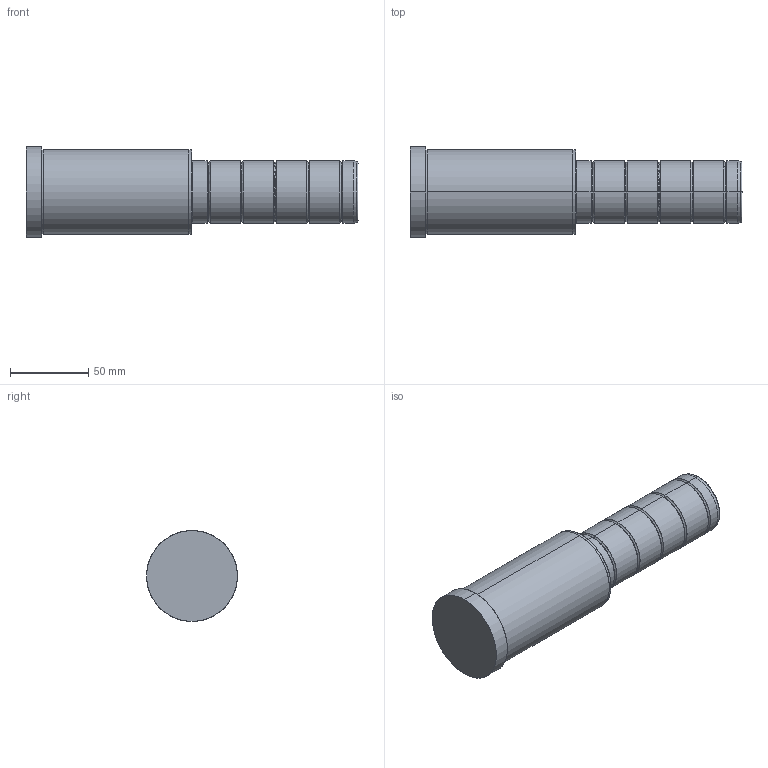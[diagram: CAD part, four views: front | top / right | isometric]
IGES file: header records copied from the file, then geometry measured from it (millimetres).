
Start section: SolidWorks IGES file using analytic representation for surfaces
Global section: file name: C:\Documents and Settings\kalite-mail\Desktop\IGS\D02\40\D02 - 40x106x106.IGS; native system: SolidWorks 2008; preprocessor: SolidWorks 2008; author: kalite-mail; date: 080617.101820; units: millimetre
Bounding box: 212 x 58 x 58 mm (x, y, z)
Surface area: 37178.4 mm2 (no closed solid volume)
Topology: 0 solids, 0 shells, 54 faces, 832 edges, 832 vertices
Faces by surface type: bspline 30, revolution 24
